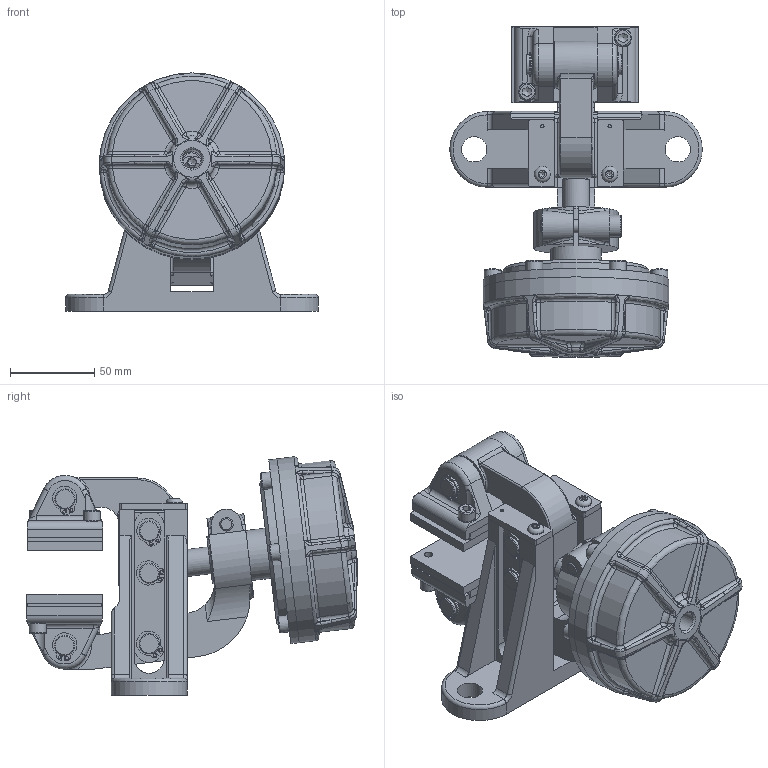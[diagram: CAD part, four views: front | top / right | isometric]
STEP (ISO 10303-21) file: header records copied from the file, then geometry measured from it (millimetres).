
FILE_DESCRIPTION(/* description */ ('','CAx-IF Rec.Pracs.---Representation and Presentation of Product Manufacturing Information (PMI)---4.0---2014-10-13'),/* implementation_level */ '2;1');
FILE_NAME(/* name */ 'X:\INVENTOR\DISEGNI\19_Pinze\STEP x Sito\PNEUM-POSITIVE\19_16_012_04 PPD012_25,4.stp',/* time_stamp */ '2018-02-14T07:40:18+01:00',/* author */ ('stefano'),/* organization */ (''),/* preprocessor_version */ 'ST-DEVELOPER v17',/* originating_system */ 'Autodesk Inventor 2018',/* authorisation */ '');
FILE_SCHEMA (('AP242_MANAGED_MODEL_BASED_3D_ENGINEERING_MIM_LF { 1 0 10303 442 1 1 4 }'));
Length unit declared in the file: millimetre
Products named in the file (1): 19_16_012_04 PPD012_25,4_Substitute_2
Bounding box: 150 x 196.38 x 141.56 mm (x, y, z)
Volume: 963122.8 mm3; surface area: 154172.3 mm2
Topology: 4 solids, 4 shells, 1071 faces, 2906 edges, 1857 vertices
Faces by surface type: plane 472, cylinder 274, bspline 180, torus 73, cone 59, sphere 13
Full cylindrical faces by diameter (mm): 1.7 x20, 2 x2, 4.917 x8, 5 x1, 8 x2, 8.5 x1, 9.5 x4, 10 x14, 11.445 x1, 11.5 x10, 12 x23, 13 x2, 13.5 x1, 15 x2, 16 x1, 19 x1, 22.6 x1, 30 x1, 35 x1, 60 x1, 88 x1, 110 x2
Entity records: 43394 total; most frequent: CARTESIAN_POINT 16188, ORIENTED_EDGE 5742, DIRECTION 5221, EDGE_CURVE 2871, AXIS2_PLACEMENT_3D 2026, VERTEX_POINT 1857, EDGE_LOOP 1176, LINE 1169
